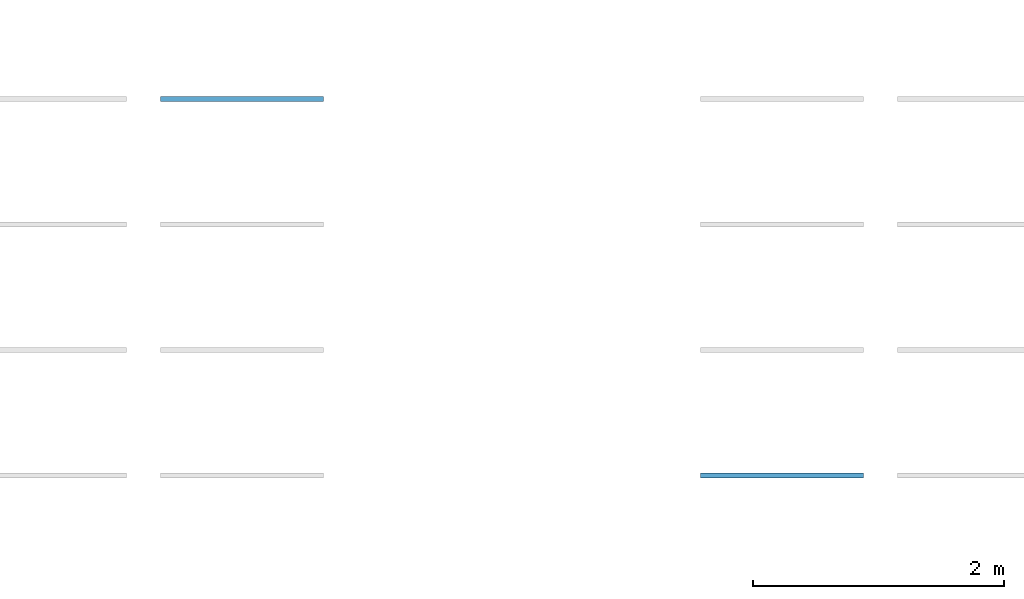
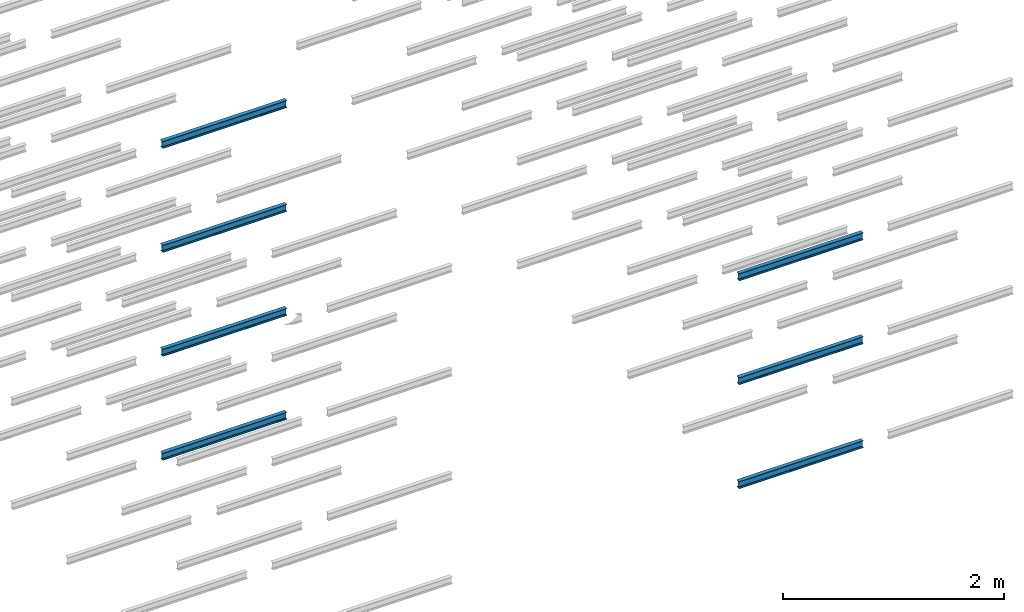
# One storey, part 98 of 290: 7 beams.
"""IFC2X3 building model written with IfcOpenShell, lengths in metres."""

from ifc_helpers import new_model, entity, si_unit, converted_unit, derived_unit, direction, frame, frame_2d, origin, place, context, subcontext, project, spatial, polyline, circle_curve, parameter, trimmed, segment, composite_curve, outline, extrude, material, type_object, element, save


model = new_model("IFC2X3")

# Units and contexts
model_context = context("Model", 3, precision=1e-05, world=origin(), true_north=direction((6.12303176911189e-17, 1.0)))
body_context = subcontext(model_context, "Body", "Model", "MODEL_VIEW")
ifc_project = project(units=[si_unit("LENGTHUNIT", "METRE"), si_unit("AREAUNIT", "SQUARE_METRE"), si_unit("VOLUMEUNIT", "CUBIC_METRE"), converted_unit("PLANEANGLEUNIT", "DEGREE", entity("IfcRatioMeasure", 0.0174532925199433), si_unit("PLANEANGLEUNIT", "RADIAN"), dimensions=[0, 0, 0, 0, 0, 0, 0]), si_unit("MASSUNIT", "GRAM", prefix="KILO"), derived_unit("MASSDENSITYUNIT", [(si_unit("MASSUNIT", "GRAM", prefix="KILO"), 1), (si_unit("LENGTHUNIT", "METRE"), -3)]), derived_unit("MOMENTOFINERTIAUNIT", [(si_unit("LENGTHUNIT", "METRE"), 4)]), si_unit("TIMEUNIT", "SECOND"), si_unit("FREQUENCYUNIT", "HERTZ"), si_unit("THERMODYNAMICTEMPERATUREUNIT", "DEGREE_CELSIUS"), derived_unit("THERMALTRANSMITTANCEUNIT", [(si_unit("MASSUNIT", "GRAM", prefix="KILO"), 1), (si_unit("THERMODYNAMICTEMPERATUREUNIT", "KELVIN"), -1), (si_unit("TIMEUNIT", "SECOND"), -3)]), derived_unit("VOLUMETRICFLOWRATEUNIT", [(si_unit("LENGTHUNIT", "METRE"), 3), (si_unit("TIMEUNIT", "SECOND"), -1)]), si_unit("ELECTRICCURRENTUNIT", "AMPERE"), si_unit("ELECTRICVOLTAGEUNIT", "VOLT"), si_unit("POWERUNIT", "WATT"), si_unit("FORCEUNIT", "NEWTON", prefix="KILO"), si_unit("ILLUMINANCEUNIT", "LUX"), si_unit("LUMINOUSFLUXUNIT", "LUMEN"), si_unit("LUMINOUSINTENSITYUNIT", "CANDELA"), derived_unit("USERDEFINED", [(si_unit("MASSUNIT", "GRAM", prefix="KILO"), -1), (si_unit("LENGTHUNIT", "METRE"), -2), (si_unit("TIMEUNIT", "SECOND"), 3), (si_unit("LUMINOUSFLUXUNIT", "LUMEN"), 1)]), derived_unit("LINEARVELOCITYUNIT", [(si_unit("LENGTHUNIT", "METRE"), 1), (si_unit("TIMEUNIT", "SECOND"), -1)]), si_unit("PRESSUREUNIT", "PASCAL"), derived_unit("USERDEFINED", [(si_unit("LENGTHUNIT", "METRE"), -2), (si_unit("MASSUNIT", "GRAM", prefix="KILO"), 1), (si_unit("TIMEUNIT", "SECOND"), -2)]), derived_unit("LINEARFORCEUNIT", [(si_unit("MASSUNIT", "GRAM", prefix="KILO"), 1), (si_unit("LENGTHUNIT", "METRE"), 1), (si_unit("TIMEUNIT", "SECOND"), -2), (si_unit("LENGTHUNIT", "METRE"), -1)]), derived_unit("PLANARFORCEUNIT", [(si_unit("MASSUNIT", "GRAM", prefix="KILO"), 1), (si_unit("LENGTHUNIT", "METRE"), 1), (si_unit("TIMEUNIT", "SECOND"), -2), (si_unit("LENGTHUNIT", "METRE"), -2)])], contexts=[model_context])

# Site, building, storey
site_placement = place(None, origin())
site = spatial("IfcSite", under=ifc_project, at=site_placement, Name="Default", CompositionType="ELEMENT")
building_placement = place(site_placement, origin())
building = spatial("IfcBuilding", under=site, at=building_placement, CompositionType="ELEMENT")
storey_placement = place(building_placement, frame((0.0, 0.0, 4.0)))
storey = spatial("IfcBuildingStorey", under=building, at=storey_placement, Name="01_OG", CompositionType="ELEMENT", Elevation=4.0)

# Beams
ifc_material = material(Name="Metall - Baustahl S235")
beam_type = type_object("IfcBeamType", Name="IPN Träger:IPN 80", PredefinedType="NOTDEFINED")
beam_1_placement = place(storey_placement, frame((-170.510111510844, 26.994588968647, -1.73)))
element("IfcBeam", 1, at=beam_1_placement, inside=storey, type_object=beam_type, material=ifc_material, Name="IPN Träger:IPN 80", ObjectType="IPN Träger:IPN 80", context=body_context, shape_type="SweptSolid", body=[
    extrude(outline(composite_curve([segment(polyline([(0.0375704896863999, -0.0210000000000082), (0.0399999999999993, -0.0210000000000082)]), True, "CONTINUOUS"), segment(polyline([(0.0399999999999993, -0.0210000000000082), (0.0399999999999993, 0.0209999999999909)]), True, "CONTINUOUS"), segment(polyline([(0.0399999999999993, 0.0209999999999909), (0.0375704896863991, 0.0209999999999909)]), True, "CONTINUOUS"), segment(trimmed(circle_curve(frame_2d((0.0375704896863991, 0.0186999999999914), x_axis=(0.0, 1.0)), 0.00230000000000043), [parameter(0.0)], [parameter(82.0299999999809)], True, "PARAMETER"), True, "CONTINUOUS"), segment(polyline([(0.0352927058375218, 0.019018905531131), (0.0333732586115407, 0.00530924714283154)]), True, "CONTINUOUS"), segment(trimmed(circle_curve(frame_2d((0.0295109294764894, 0.00584999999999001), x_axis=(0.990340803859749, -0.138654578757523)), 0.00389999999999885), [parameter(277.969999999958)], [parameter(0.0)], True, "PARAMETER"), False, "CONTINUOUS"), segment(polyline([(0.0295109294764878, 0.00194999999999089), (-0.0295109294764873, 0.00194999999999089)]), True, "CONTINUOUS"), segment(trimmed(circle_curve(frame_2d((-0.0295109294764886, 0.00584999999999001), x_axis=(0.0, -1.0)), 0.00389999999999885), [parameter(277.969999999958)], [parameter(0.0)], True, "PARAMETER"), False, "CONTINUOUS"), segment(polyline([(-0.0333732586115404, 0.00530924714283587), (-0.0352927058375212, 0.0190189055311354)]), True, "CONTINUOUS"), segment(trimmed(circle_curve(frame_2d((-0.0375704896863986, 0.0186999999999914), x_axis=(0.990340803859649, 0.138654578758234)), 0.00230000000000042), [parameter(0.0)], [parameter(82.0299999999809)], True, "PARAMETER"), True, "CONTINUOUS"), segment(polyline([(-0.0375704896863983, 0.0209999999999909), (-0.0400000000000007, 0.0209999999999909)]), True, "CONTINUOUS"), segment(polyline([(-0.0400000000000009, 0.0209999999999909), (-0.0400000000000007, -0.0210000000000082)]), True, "CONTINUOUS"), segment(polyline([(-0.0400000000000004, -0.0210000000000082), (-0.0375704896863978, -0.0210000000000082)]), True, "CONTINUOUS"), segment(trimmed(circle_curve(frame_2d((-0.0375704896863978, -0.0187000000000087), x_axis=(0.0, -1.0)), 0.00230000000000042), [parameter(0.0)], [parameter(82.0299999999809)], True, "PARAMETER"), True, "CONTINUOUS"), segment(polyline([(-0.0352927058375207, -0.0190189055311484), (-0.0333732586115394, -0.0053092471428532)]), True, "CONTINUOUS"), segment(trimmed(circle_curve(frame_2d((-0.0295109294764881, -0.00585000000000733), x_axis=(-0.990340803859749, 0.138654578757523)), 0.00389999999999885), [parameter(277.969999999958)], [parameter(0.0)], True, "PARAMETER"), False, "CONTINUOUS"), segment(polyline([(-0.0295109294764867, -0.00195000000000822), (0.0295109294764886, -0.00195000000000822)]), True, "CONTINUOUS"), segment(trimmed(circle_curve(frame_2d((0.0295109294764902, -0.00585000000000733), x_axis=(0.0, 1.0)), 0.0038999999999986), [parameter(277.969999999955)], [parameter(0.0)], True, "PARAMETER"), False, "CONTINUOUS"), segment(polyline([(0.0333732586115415, -0.0053092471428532), (0.0352927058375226, -0.0190189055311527)]), True, "CONTINUOUS"), segment(trimmed(circle_curve(frame_2d((0.0375704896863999, -0.0187000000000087), x_axis=(-0.990340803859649, -0.138654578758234)), 0.00230000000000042), [parameter(0.0)], [parameter(82.0299999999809)], True, "PARAMETER"), True, "CONTINUOUS")], self_intersect=False)), frame((0.00010000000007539, 0.0210000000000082, -0.0400000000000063), z_axis=(1.0, 0.0, 0.0), x_axis=(0.0, 0.0, -1.0)), (0.0, 0.0, 1.0), 1.29990000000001),
])
beam_2_placement = place(storey_placement, frame((-170.510111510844, 26.994588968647, -0.579999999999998)))
element("IfcBeam", 2, at=beam_2_placement, inside=storey, type_object=beam_type, material=ifc_material, Name="IPN Träger:IPN 80", ObjectType="IPN Träger:IPN 80", context=body_context, shape_type="SweptSolid", body=[
    extrude(outline(composite_curve([segment(polyline([(0.0375704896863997, -0.0210000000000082), (0.039999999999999, -0.0210000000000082)]), True, "CONTINUOUS"), segment(polyline([(0.039999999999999, -0.0210000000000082), (0.039999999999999, 0.0209999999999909)]), True, "CONTINUOUS"), segment(polyline([(0.039999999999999, 0.0209999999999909), (0.0375704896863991, 0.0209999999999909)]), True, "CONTINUOUS"), segment(trimmed(circle_curve(frame_2d((0.0375704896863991, 0.0186999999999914), x_axis=(0.0, 1.0)), 0.00230000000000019), [parameter(0.0)], [parameter(82.02999999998)], True, "PARAMETER"), True, "CONTINUOUS"), segment(polyline([(0.0352927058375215, 0.019018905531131), (0.0333732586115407, 0.00530924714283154)]), True, "CONTINUOUS"), segment(trimmed(circle_curve(frame_2d((0.0295109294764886, 0.00584999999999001), x_axis=(0.990340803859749, -0.138654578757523)), 0.00389999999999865), [parameter(277.969999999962)], [parameter(0.0)], True, "PARAMETER"), False, "CONTINUOUS"), segment(polyline([(0.0295109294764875, 0.00194999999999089), (-0.0295109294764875, 0.00194999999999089)]), True, "CONTINUOUS"), segment(trimmed(circle_curve(frame_2d((-0.0295109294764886, 0.00584999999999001), x_axis=(0.0, -1.0)), 0.00389999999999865), [parameter(277.969999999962)], [parameter(0.0)], True, "PARAMETER"), False, "CONTINUOUS"), segment(polyline([(-0.0333732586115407, 0.00530924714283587), (-0.0352927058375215, 0.0190189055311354)]), True, "CONTINUOUS"), segment(trimmed(circle_curve(frame_2d((-0.0375704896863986, 0.0186999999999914), x_axis=(0.990340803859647, 0.138654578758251)), 0.00230000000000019), [parameter(0.0)], [parameter(82.02999999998)], True, "PARAMETER"), True, "CONTINUOUS"), segment(polyline([(-0.0375704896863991, 0.0209999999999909), (-0.0400000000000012, 0.0209999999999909)]), True, "CONTINUOUS"), segment(polyline([(-0.0400000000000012, 0.0209999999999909), (-0.0400000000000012, -0.0210000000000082)]), True, "CONTINUOUS"), segment(polyline([(-0.0400000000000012, -0.0210000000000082), (-0.037570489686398, -0.0210000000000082)]), True, "CONTINUOUS"), segment(trimmed(circle_curve(frame_2d((-0.037570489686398, -0.0187000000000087), x_axis=(0.0, -1.0)), 0.00230000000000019), [parameter(0.0)], [parameter(82.02999999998)], True, "PARAMETER"), True, "CONTINUOUS"), segment(polyline([(-0.035292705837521, -0.0190189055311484), (-0.0333732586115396, -0.0053092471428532)]), True, "CONTINUOUS"), segment(trimmed(circle_curve(frame_2d((-0.0295109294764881, -0.00585000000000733), x_axis=(-0.990340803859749, 0.138654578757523)), 0.00389999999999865), [parameter(277.969999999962)], [parameter(0.0)], True, "PARAMETER"), False, "CONTINUOUS"), segment(polyline([(-0.029510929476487, -0.00195000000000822), (0.0295109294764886, -0.00195000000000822)]), True, "CONTINUOUS"), segment(trimmed(circle_curve(frame_2d((0.0295109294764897, -0.00585000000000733), x_axis=(0.0, 1.0)), 0.00389999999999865), [parameter(277.969999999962)], [parameter(0.0)], True, "PARAMETER"), False, "CONTINUOUS"), segment(polyline([(0.0333732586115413, -0.0053092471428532), (0.0352927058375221, -0.0190189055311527)]), True, "CONTINUOUS"), segment(trimmed(circle_curve(frame_2d((0.0375704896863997, -0.0187000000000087), x_axis=(-0.990340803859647, -0.138654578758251)), 0.00230000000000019), [parameter(0.0)], [parameter(82.02999999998)], True, "PARAMETER"), True, "CONTINUOUS")], self_intersect=False)), frame((0.000100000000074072, 0.0210000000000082, -0.0400000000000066), z_axis=(1.0, 0.0, 0.0), x_axis=(0.0, 0.0, -1.0)), (0.0, 0.0, 1.0), 1.29990000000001),
])
beam_3_placement = place(storey_placement, frame((-170.510111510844, 26.994588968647, 0.570000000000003)))
element("IfcBeam", 3, at=beam_3_placement, inside=storey, type_object=beam_type, material=ifc_material, Name="IPN Träger:IPN 80", ObjectType="IPN Träger:IPN 80", context=body_context, shape_type="SweptSolid", body=[
    extrude(outline(composite_curve([segment(polyline([(0.0375704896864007, -0.0210000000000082), (0.0400000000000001, -0.0210000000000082)]), True, "CONTINUOUS"), segment(polyline([(0.0400000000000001, -0.0210000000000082), (0.0400000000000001, 0.0209999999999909)]), True, "CONTINUOUS"), segment(polyline([(0.0400000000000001, 0.0209999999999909), (0.0375704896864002, 0.0209999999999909)]), True, "CONTINUOUS"), segment(trimmed(circle_curve(frame_2d((0.0375704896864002, 0.0186999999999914), x_axis=(0.0, 1.0)), 0.00230000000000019), [parameter(0.0)], [parameter(82.02999999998)], True, "PARAMETER"), True, "CONTINUOUS"), segment(polyline([(0.0352927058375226, 0.019018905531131), (0.0333732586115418, 0.00530924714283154)]), True, "CONTINUOUS"), segment(trimmed(circle_curve(frame_2d((0.0295109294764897, 0.00584999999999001), x_axis=(0.990340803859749, -0.138654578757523)), 0.00389999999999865), [parameter(277.969999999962)], [parameter(0.0)], True, "PARAMETER"), False, "CONTINUOUS"), segment(polyline([(0.0295109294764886, 0.00194999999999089), (-0.0295109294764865, 0.00194999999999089)]), True, "CONTINUOUS"), segment(trimmed(circle_curve(frame_2d((-0.0295109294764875, 0.00584999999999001), x_axis=(0.0, -1.0)), 0.00389999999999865), [parameter(277.969999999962)], [parameter(0.0)], True, "PARAMETER"), False, "CONTINUOUS"), segment(polyline([(-0.0333732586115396, 0.00530924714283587), (-0.0352927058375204, 0.0190189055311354)]), True, "CONTINUOUS"), segment(trimmed(circle_curve(frame_2d((-0.0375704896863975, 0.0186999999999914), x_axis=(0.990340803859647, 0.138654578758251)), 0.00230000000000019), [parameter(0.0)], [parameter(82.02999999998)], True, "PARAMETER"), True, "CONTINUOUS"), segment(polyline([(-0.037570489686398, 0.0209999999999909), (-0.0400000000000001, 0.0209999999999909)]), True, "CONTINUOUS"), segment(polyline([(-0.0400000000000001, 0.0209999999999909), (-0.0400000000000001, -0.0210000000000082)]), True, "CONTINUOUS"), segment(polyline([(-0.0400000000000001, -0.0210000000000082), (-0.0375704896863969, -0.0210000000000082)]), True, "CONTINUOUS"), segment(trimmed(circle_curve(frame_2d((-0.0375704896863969, -0.0187000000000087), x_axis=(0.0, -1.0)), 0.00230000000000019), [parameter(0.0)], [parameter(82.02999999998)], True, "PARAMETER"), True, "CONTINUOUS"), segment(polyline([(-0.0352927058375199, -0.0190189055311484), (-0.0333732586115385, -0.0053092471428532)]), True, "CONTINUOUS"), segment(trimmed(circle_curve(frame_2d((-0.029510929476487, -0.00585000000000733), x_axis=(-0.990340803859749, 0.138654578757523)), 0.00389999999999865), [parameter(277.969999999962)], [parameter(0.0)], True, "PARAMETER"), False, "CONTINUOUS"), segment(polyline([(-0.0295109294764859, -0.00195000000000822), (0.0295109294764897, -0.00195000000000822)]), True, "CONTINUOUS"), segment(trimmed(circle_curve(frame_2d((0.0295109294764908, -0.00585000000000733), x_axis=(0.0, 1.0)), 0.00389999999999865), [parameter(277.969999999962)], [parameter(0.0)], True, "PARAMETER"), False, "CONTINUOUS"), segment(polyline([(0.0333732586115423, -0.0053092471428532), (0.0352927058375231, -0.0190189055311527)]), True, "CONTINUOUS"), segment(trimmed(circle_curve(frame_2d((0.0375704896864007, -0.0187000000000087), x_axis=(-0.990340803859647, -0.138654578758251)), 0.00230000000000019), [parameter(0.0)], [parameter(82.02999999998)], True, "PARAMETER"), True, "CONTINUOUS")], self_intersect=False)), frame((0.000100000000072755, 0.0210000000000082, -0.0400000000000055), z_axis=(1.0, 0.0, 0.0), x_axis=(0.0, 0.0, -1.0)), (0.0, 0.0, 1.0), 1.29990000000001),
])
beam_4_placement = place(storey_placement, frame((-170.510111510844, 26.994588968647, 1.72)))
element("IfcBeam", 4, at=beam_4_placement, inside=storey, type_object=beam_type, material=ifc_material, Name="IPN Träger:IPN 80", ObjectType="IPN Träger:IPN 80", context=body_context, shape_type="SweptSolid", body=[
    extrude(outline(composite_curve([segment(polyline([(0.0375704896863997, -0.0210000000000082), (0.0399999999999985, -0.0210000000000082)]), True, "CONTINUOUS"), segment(polyline([(0.0399999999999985, -0.0210000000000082), (0.0399999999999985, 0.0209999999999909)]), True, "CONTINUOUS"), segment(polyline([(0.0399999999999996, 0.0209999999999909), (0.0375704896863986, 0.0209999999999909)]), True, "CONTINUOUS"), segment(trimmed(circle_curve(frame_2d((0.0375704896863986, 0.0186999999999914), x_axis=(0.0, 1.0)), 0.00230000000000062), [parameter(0.0)], [parameter(82.0299999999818)], True, "PARAMETER"), True, "CONTINUOUS"), segment(polyline([(0.0352927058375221, 0.019018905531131), (0.0333732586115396, 0.00530924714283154)]), True, "CONTINUOUS"), segment(trimmed(circle_curve(frame_2d((0.0295109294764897, 0.00584999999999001), x_axis=(0.990340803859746, -0.138654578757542)), 0.00389999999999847), [parameter(277.969999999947)], [parameter(0.0)], True, "PARAMETER"), False, "CONTINUOUS"), segment(polyline([(0.0295109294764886, 0.00194999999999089), (-0.0295109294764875, 0.00194999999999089)]), True, "CONTINUOUS"), segment(trimmed(circle_curve(frame_2d((-0.0295109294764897, 0.00584999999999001), x_axis=(0.0, -1.0)), 0.00389999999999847), [parameter(277.969999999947)], [parameter(0.0)], True, "PARAMETER"), False, "CONTINUOUS"), segment(polyline([(-0.0333732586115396, 0.00530924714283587), (-0.0352927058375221, 0.0190189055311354)]), True, "CONTINUOUS"), segment(trimmed(circle_curve(frame_2d((-0.0375704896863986, 0.0186999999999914), x_axis=(0.990340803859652, 0.138654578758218)), 0.00230000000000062), [parameter(0.0)], [parameter(82.0299999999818)], True, "PARAMETER"), True, "CONTINUOUS"), segment(polyline([(-0.0375704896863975, 0.0209999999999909), (-0.0400000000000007, 0.0209999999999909)]), True, "CONTINUOUS"), segment(polyline([(-0.0400000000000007, 0.0209999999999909), (-0.0400000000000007, -0.0210000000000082)]), True, "CONTINUOUS"), segment(polyline([(-0.0400000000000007, -0.0210000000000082), (-0.0375704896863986, -0.0210000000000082)]), True, "CONTINUOUS"), segment(trimmed(circle_curve(frame_2d((-0.0375704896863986, -0.0187000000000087), x_axis=(0.0, -1.0)), 0.00230000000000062), [parameter(0.0)], [parameter(82.0299999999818)], True, "PARAMETER"), True, "CONTINUOUS"), segment(polyline([(-0.035292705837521, -0.0190189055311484), (-0.0333732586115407, -0.0053092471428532)]), True, "CONTINUOUS"), segment(trimmed(circle_curve(frame_2d((-0.0295109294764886, -0.00585000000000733), x_axis=(-0.990340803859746, 0.138654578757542)), 0.00389999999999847), [parameter(277.969999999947)], [parameter(0.0)], True, "PARAMETER"), False, "CONTINUOUS"), segment(polyline([(-0.0295109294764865, -0.00195000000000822), (0.0295109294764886, -0.00195000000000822)]), True, "CONTINUOUS"), segment(trimmed(circle_curve(frame_2d((0.0295109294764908, -0.00585000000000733), x_axis=(0.0, 1.0)), 0.00389999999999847), [parameter(277.969999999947)], [parameter(0.0)], True, "PARAMETER"), False, "CONTINUOUS"), segment(polyline([(0.0333732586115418, -0.0053092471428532), (0.0352927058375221, -0.0190189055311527)]), True, "CONTINUOUS"), segment(trimmed(circle_curve(frame_2d((0.0375704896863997, -0.0187000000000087), x_axis=(-0.990340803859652, -0.138654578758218)), 0.00230000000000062), [parameter(0.0)], [parameter(82.0299999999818)], True, "PARAMETER"), True, "CONTINUOUS")], self_intersect=False)), frame((0.000100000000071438, 0.0210000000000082, -0.040000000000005), z_axis=(1.0, 0.0, 0.0), x_axis=(0.0, 0.0, -1.0)), (0.0, 0.0, 1.0), 1.29990000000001),
])
beam_5_placement = place(storey_placement, frame((-164.910111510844, 24.036588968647, -1.73), z_axis=(0.0, 0.0, 1.0), x_axis=(-1.0, 0.0, 0.0)))
element("IfcBeam", 5, at=beam_5_placement, inside=storey, type_object=beam_type, material=ifc_material, Name="IPN Träger:IPN 80", ObjectType="IPN Träger:IPN 80", context=body_context, shape_type="SweptSolid", body=[
    extrude(outline(composite_curve([segment(polyline([(0.0375704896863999, -0.0210000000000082), (0.0399999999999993, -0.0210000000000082)]), True, "CONTINUOUS"), segment(polyline([(0.0399999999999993, -0.0210000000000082), (0.0399999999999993, 0.0209999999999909)]), True, "CONTINUOUS"), segment(polyline([(0.0399999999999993, 0.0209999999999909), (0.0375704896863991, 0.0209999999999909)]), True, "CONTINUOUS"), segment(trimmed(circle_curve(frame_2d((0.0375704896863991, 0.0186999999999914), x_axis=(0.0, 1.0)), 0.00230000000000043), [parameter(0.0)], [parameter(82.0299999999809)], True, "PARAMETER"), True, "CONTINUOUS"), segment(polyline([(0.0352927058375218, 0.019018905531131), (0.0333732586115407, 0.00530924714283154)]), True, "CONTINUOUS"), segment(trimmed(circle_curve(frame_2d((0.0295109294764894, 0.00584999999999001), x_axis=(0.990340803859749, -0.138654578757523)), 0.00389999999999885), [parameter(277.969999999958)], [parameter(0.0)], True, "PARAMETER"), False, "CONTINUOUS"), segment(polyline([(0.0295109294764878, 0.00194999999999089), (-0.0295109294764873, 0.00194999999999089)]), True, "CONTINUOUS"), segment(trimmed(circle_curve(frame_2d((-0.0295109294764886, 0.00584999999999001), x_axis=(0.0, -1.0)), 0.00389999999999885), [parameter(277.969999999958)], [parameter(0.0)], True, "PARAMETER"), False, "CONTINUOUS"), segment(polyline([(-0.0333732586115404, 0.00530924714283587), (-0.0352927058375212, 0.0190189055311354)]), True, "CONTINUOUS"), segment(trimmed(circle_curve(frame_2d((-0.0375704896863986, 0.0186999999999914), x_axis=(0.990340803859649, 0.138654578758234)), 0.00230000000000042), [parameter(0.0)], [parameter(82.0299999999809)], True, "PARAMETER"), True, "CONTINUOUS"), segment(polyline([(-0.0375704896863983, 0.0209999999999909), (-0.0400000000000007, 0.0209999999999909)]), True, "CONTINUOUS"), segment(polyline([(-0.0400000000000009, 0.0209999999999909), (-0.0400000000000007, -0.0210000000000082)]), True, "CONTINUOUS"), segment(polyline([(-0.0400000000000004, -0.0210000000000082), (-0.0375704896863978, -0.0210000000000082)]), True, "CONTINUOUS"), segment(trimmed(circle_curve(frame_2d((-0.0375704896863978, -0.0187000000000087), x_axis=(0.0, -1.0)), 0.00230000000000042), [parameter(0.0)], [parameter(82.0299999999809)], True, "PARAMETER"), True, "CONTINUOUS"), segment(polyline([(-0.0352927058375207, -0.0190189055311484), (-0.0333732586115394, -0.0053092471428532)]), True, "CONTINUOUS"), segment(trimmed(circle_curve(frame_2d((-0.0295109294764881, -0.00585000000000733), x_axis=(-0.990340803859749, 0.138654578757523)), 0.00389999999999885), [parameter(277.969999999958)], [parameter(0.0)], True, "PARAMETER"), False, "CONTINUOUS"), segment(polyline([(-0.0295109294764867, -0.00195000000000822), (0.0295109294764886, -0.00195000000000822)]), True, "CONTINUOUS"), segment(trimmed(circle_curve(frame_2d((0.0295109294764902, -0.00585000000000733), x_axis=(0.0, 1.0)), 0.0038999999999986), [parameter(277.969999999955)], [parameter(0.0)], True, "PARAMETER"), False, "CONTINUOUS"), segment(polyline([(0.0333732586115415, -0.0053092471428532), (0.0352927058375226, -0.0190189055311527)]), True, "CONTINUOUS"), segment(trimmed(circle_curve(frame_2d((0.0375704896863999, -0.0187000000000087), x_axis=(-0.990340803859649, -0.138654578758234)), 0.00230000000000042), [parameter(0.0)], [parameter(82.0299999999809)], True, "PARAMETER"), True, "CONTINUOUS")], self_intersect=False)), frame((0.000100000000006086, 0.0210000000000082, -0.0400000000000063), z_axis=(1.0, 0.0, 0.0), x_axis=(0.0, 0.0, -1.0)), (0.0, 0.0, 1.0), 1.29990000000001),
])
beam_6_placement = place(storey_placement, frame((-164.910111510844, 24.036588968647, -0.579999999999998), z_axis=(0.0, 0.0, 1.0), x_axis=(-1.0, 0.0, 0.0)))
element("IfcBeam", 6, at=beam_6_placement, inside=storey, type_object=beam_type, material=ifc_material, Name="IPN Träger:IPN 80", ObjectType="IPN Träger:IPN 80", context=body_context, shape_type="SweptSolid", body=[
    extrude(outline(composite_curve([segment(polyline([(0.0375704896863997, -0.0210000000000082), (0.039999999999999, -0.0210000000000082)]), True, "CONTINUOUS"), segment(polyline([(0.039999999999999, -0.0210000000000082), (0.039999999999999, 0.0209999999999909)]), True, "CONTINUOUS"), segment(polyline([(0.039999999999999, 0.0209999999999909), (0.0375704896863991, 0.0209999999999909)]), True, "CONTINUOUS"), segment(trimmed(circle_curve(frame_2d((0.0375704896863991, 0.0186999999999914), x_axis=(0.0, 1.0)), 0.00230000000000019), [parameter(0.0)], [parameter(82.02999999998)], True, "PARAMETER"), True, "CONTINUOUS"), segment(polyline([(0.0352927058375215, 0.019018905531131), (0.0333732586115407, 0.00530924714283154)]), True, "CONTINUOUS"), segment(trimmed(circle_curve(frame_2d((0.0295109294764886, 0.00584999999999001), x_axis=(0.990340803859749, -0.138654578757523)), 0.00389999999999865), [parameter(277.969999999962)], [parameter(0.0)], True, "PARAMETER"), False, "CONTINUOUS"), segment(polyline([(0.0295109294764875, 0.00194999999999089), (-0.0295109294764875, 0.00194999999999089)]), True, "CONTINUOUS"), segment(trimmed(circle_curve(frame_2d((-0.0295109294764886, 0.00584999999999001), x_axis=(0.0, -1.0)), 0.00389999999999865), [parameter(277.969999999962)], [parameter(0.0)], True, "PARAMETER"), False, "CONTINUOUS"), segment(polyline([(-0.0333732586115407, 0.00530924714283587), (-0.0352927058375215, 0.0190189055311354)]), True, "CONTINUOUS"), segment(trimmed(circle_curve(frame_2d((-0.0375704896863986, 0.0186999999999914), x_axis=(0.990340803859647, 0.138654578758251)), 0.00230000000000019), [parameter(0.0)], [parameter(82.02999999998)], True, "PARAMETER"), True, "CONTINUOUS"), segment(polyline([(-0.0375704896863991, 0.0209999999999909), (-0.0400000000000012, 0.0209999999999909)]), True, "CONTINUOUS"), segment(polyline([(-0.0400000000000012, 0.0209999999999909), (-0.0400000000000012, -0.0210000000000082)]), True, "CONTINUOUS"), segment(polyline([(-0.0400000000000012, -0.0210000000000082), (-0.037570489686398, -0.0210000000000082)]), True, "CONTINUOUS"), segment(trimmed(circle_curve(frame_2d((-0.037570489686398, -0.0187000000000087), x_axis=(0.0, -1.0)), 0.00230000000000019), [parameter(0.0)], [parameter(82.02999999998)], True, "PARAMETER"), True, "CONTINUOUS"), segment(polyline([(-0.035292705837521, -0.0190189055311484), (-0.0333732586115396, -0.0053092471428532)]), True, "CONTINUOUS"), segment(trimmed(circle_curve(frame_2d((-0.0295109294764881, -0.00585000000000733), x_axis=(-0.990340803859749, 0.138654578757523)), 0.00389999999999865), [parameter(277.969999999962)], [parameter(0.0)], True, "PARAMETER"), False, "CONTINUOUS"), segment(polyline([(-0.029510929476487, -0.00195000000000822), (0.0295109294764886, -0.00195000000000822)]), True, "CONTINUOUS"), segment(trimmed(circle_curve(frame_2d((0.0295109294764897, -0.00585000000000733), x_axis=(0.0, 1.0)), 0.00389999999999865), [parameter(277.969999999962)], [parameter(0.0)], True, "PARAMETER"), False, "CONTINUOUS"), segment(polyline([(0.0333732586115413, -0.0053092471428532), (0.0352927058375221, -0.0190189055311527)]), True, "CONTINUOUS"), segment(trimmed(circle_curve(frame_2d((0.0375704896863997, -0.0187000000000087), x_axis=(-0.990340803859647, -0.138654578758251)), 0.00230000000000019), [parameter(0.0)], [parameter(82.02999999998)], True, "PARAMETER"), True, "CONTINUOUS")], self_intersect=False)), frame((0.000100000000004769, 0.0210000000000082, -0.0400000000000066), z_axis=(1.0, 0.0, 0.0), x_axis=(0.0, 0.0, -1.0)), (0.0, 0.0, 1.0), 1.29990000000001),
])
beam_7_placement = place(storey_placement, frame((-164.910111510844, 24.036588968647, 0.570000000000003), z_axis=(0.0, 0.0, 1.0), x_axis=(-1.0, 0.0, 0.0)))
element("IfcBeam", 7, at=beam_7_placement, inside=storey, type_object=beam_type, material=ifc_material, Name="IPN Träger:IPN 80", ObjectType="IPN Träger:IPN 80", context=body_context, shape_type="SweptSolid", body=[
    extrude(outline(composite_curve([segment(polyline([(0.0375704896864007, -0.0210000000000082), (0.0400000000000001, -0.0210000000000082)]), True, "CONTINUOUS"), segment(polyline([(0.0400000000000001, -0.0210000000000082), (0.0400000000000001, 0.0209999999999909)]), True, "CONTINUOUS"), segment(polyline([(0.0400000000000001, 0.0209999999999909), (0.0375704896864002, 0.0209999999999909)]), True, "CONTINUOUS"), segment(trimmed(circle_curve(frame_2d((0.0375704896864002, 0.0186999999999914), x_axis=(0.0, 1.0)), 0.00230000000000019), [parameter(0.0)], [parameter(82.02999999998)], True, "PARAMETER"), True, "CONTINUOUS"), segment(polyline([(0.0352927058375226, 0.019018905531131), (0.0333732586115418, 0.00530924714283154)]), True, "CONTINUOUS"), segment(trimmed(circle_curve(frame_2d((0.0295109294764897, 0.00584999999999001), x_axis=(0.990340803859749, -0.138654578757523)), 0.00389999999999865), [parameter(277.969999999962)], [parameter(0.0)], True, "PARAMETER"), False, "CONTINUOUS"), segment(polyline([(0.0295109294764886, 0.00194999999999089), (-0.0295109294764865, 0.00194999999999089)]), True, "CONTINUOUS"), segment(trimmed(circle_curve(frame_2d((-0.0295109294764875, 0.00584999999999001), x_axis=(0.0, -1.0)), 0.00389999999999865), [parameter(277.969999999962)], [parameter(0.0)], True, "PARAMETER"), False, "CONTINUOUS"), segment(polyline([(-0.0333732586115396, 0.00530924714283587), (-0.0352927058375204, 0.0190189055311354)]), True, "CONTINUOUS"), segment(trimmed(circle_curve(frame_2d((-0.0375704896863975, 0.0186999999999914), x_axis=(0.990340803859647, 0.138654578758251)), 0.00230000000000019), [parameter(0.0)], [parameter(82.02999999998)], True, "PARAMETER"), True, "CONTINUOUS"), segment(polyline([(-0.037570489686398, 0.0209999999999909), (-0.0400000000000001, 0.0209999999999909)]), True, "CONTINUOUS"), segment(polyline([(-0.0400000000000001, 0.0209999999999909), (-0.0400000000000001, -0.0210000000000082)]), True, "CONTINUOUS"), segment(polyline([(-0.0400000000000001, -0.0210000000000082), (-0.0375704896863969, -0.0210000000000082)]), True, "CONTINUOUS"), segment(trimmed(circle_curve(frame_2d((-0.0375704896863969, -0.0187000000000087), x_axis=(0.0, -1.0)), 0.00230000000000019), [parameter(0.0)], [parameter(82.02999999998)], True, "PARAMETER"), True, "CONTINUOUS"), segment(polyline([(-0.0352927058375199, -0.0190189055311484), (-0.0333732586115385, -0.0053092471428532)]), True, "CONTINUOUS"), segment(trimmed(circle_curve(frame_2d((-0.029510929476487, -0.00585000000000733), x_axis=(-0.990340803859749, 0.138654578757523)), 0.00389999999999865), [parameter(277.969999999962)], [parameter(0.0)], True, "PARAMETER"), False, "CONTINUOUS"), segment(polyline([(-0.0295109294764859, -0.00195000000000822), (0.0295109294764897, -0.00195000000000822)]), True, "CONTINUOUS"), segment(trimmed(circle_curve(frame_2d((0.0295109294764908, -0.00585000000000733), x_axis=(0.0, 1.0)), 0.00389999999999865), [parameter(277.969999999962)], [parameter(0.0)], True, "PARAMETER"), False, "CONTINUOUS"), segment(polyline([(0.0333732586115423, -0.0053092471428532), (0.0352927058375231, -0.0190189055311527)]), True, "CONTINUOUS"), segment(trimmed(circle_curve(frame_2d((0.0375704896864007, -0.0187000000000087), x_axis=(-0.990340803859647, -0.138654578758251)), 0.00230000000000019), [parameter(0.0)], [parameter(82.02999999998)], True, "PARAMETER"), True, "CONTINUOUS")], self_intersect=False)), frame((0.000100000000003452, 0.0210000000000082, -0.0400000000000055), z_axis=(1.0, 0.0, 0.0), x_axis=(0.0, 0.0, -1.0)), (0.0, 0.0, 1.0), 1.29990000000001),
])

save(model, "model.ifc")
